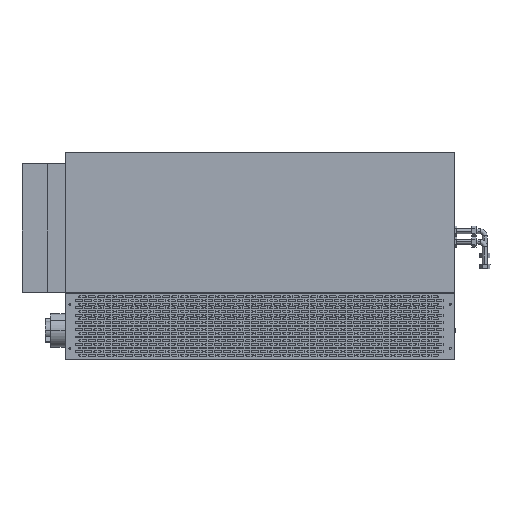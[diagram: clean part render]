
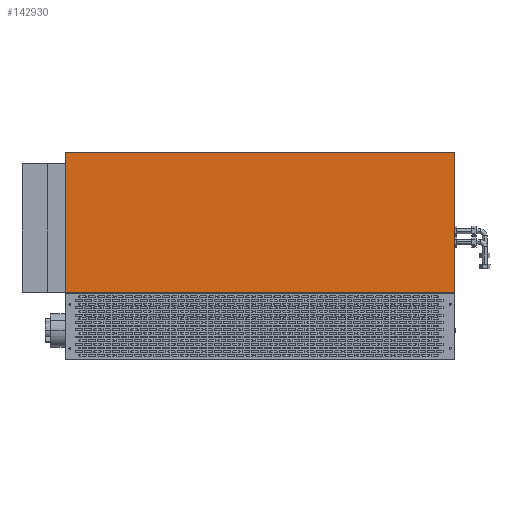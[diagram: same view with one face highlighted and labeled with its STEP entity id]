
A CAD part, top view. The second image highlights one B-rep face of the part: STEP entity #142930.
In plain terms, the highlighted planar face has unit normal (0, 0, 1).
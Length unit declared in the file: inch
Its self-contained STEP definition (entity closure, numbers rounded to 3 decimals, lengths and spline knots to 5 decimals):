
#333 = FACE_OUTER_BOUND ( 'NONE', #74465, .T. ) ;
#16071 = DIRECTION ( 'NONE',  ( 0., -1., 0. ) ) ;
#27021 = DIRECTION ( 'NONE',  ( -1., 0., 0. ) ) ;
#28837 = DIRECTION ( 'NONE',  ( -1., 0., 0. ) ) ;
#33182 = DIRECTION ( 'NONE',  ( 0., -1., 0. ) ) ;
#35287 = VERTEX_POINT ( 'NONE', #114787 ) ;
#36670 = CARTESIAN_POINT ( 'NONE',  ( -20.8125, 22.125, 2.5625 ) ) ;
#39137 = AXIS2_PLACEMENT_3D ( 'NONE', #68970, #109143, #28837 ) ;
#47576 = DIRECTION ( 'NONE',  ( 1., 0., 0. ) ) ;
#65323 = ORIENTED_EDGE ( 'NONE', *, *, #86580, .F. ) ;
#67802 = VERTEX_POINT ( 'NONE', #126537 ) ;
#68260 = VECTOR ( 'NONE', #47576, 39.37008 ) ;
#68970 = CARTESIAN_POINT ( 'NONE',  ( -20.8125, 22.125, 2.5625 ) ) ;
#69814 = CARTESIAN_POINT ( 'NONE',  ( -20.8125, 7.164, 2.5625 ) ) ;
#74465 = EDGE_LOOP ( 'NONE', ( #143073, #65323, #107972, #102098 ) ) ;
#80933 = EDGE_CURVE ( 'NONE', #90095, #67802, #144762, .T. ) ;
#83877 = CARTESIAN_POINT ( 'NONE',  ( -20.8125, 22.125, 2.5625 ) ) ;
#85844 = CARTESIAN_POINT ( 'NONE',  ( 20.8125, 22.125, 2.5625 ) ) ;
#86580 = EDGE_CURVE ( 'NONE', #35287, #137140, #149265, .T. ) ;
#87003 = EDGE_CURVE ( 'NONE', #90095, #137140, #137403, .T. ) ;
#90095 = VERTEX_POINT ( 'NONE', #36670 ) ;
#102098 = ORIENTED_EDGE ( 'NONE', *, *, #80933, .F. ) ;
#107972 = ORIENTED_EDGE ( 'NONE', *, *, #125061, .F. ) ;
#109143 = DIRECTION ( 'NONE',  ( 0., 0., -1. ) ) ;
#112108 = VECTOR ( 'NONE', #27021, 39.37008 ) ;
#114787 = CARTESIAN_POINT ( 'NONE',  ( 20.8125, 7.164, 2.5625 ) ) ;
#125061 = EDGE_CURVE ( 'NONE', #67802, #35287, #169656, .T. ) ;
#126537 = CARTESIAN_POINT ( 'NONE',  ( 20.8125, 22.125, 2.5625 ) ) ;
#137140 = VERTEX_POINT ( 'NONE', #139973 ) ;
#137403 = LINE ( 'NONE', #83877, #160755 ) ;
#139973 = CARTESIAN_POINT ( 'NONE',  ( -20.8125, 7.164, 2.5625 ) ) ;
#140958 = PLANE ( 'NONE',  #39137 ) ;
#142930 = ADVANCED_FACE ( 'NONE', ( #333 ), #140958, .F. ) ;
#143073 = ORIENTED_EDGE ( 'NONE', *, *, #87003, .T. ) ;
#144762 = LINE ( 'NONE', #172391, #68260 ) ;
#149265 = LINE ( 'NONE', #69814, #112108 ) ;
#160755 = VECTOR ( 'NONE', #16071, 39.37008 ) ;
#167669 = VECTOR ( 'NONE', #33182, 39.37008 ) ;
#169656 = LINE ( 'NONE', #85844, #167669 ) ;
#172391 = CARTESIAN_POINT ( 'NONE',  ( -20.8125, 22.125, 2.5625 ) ) ;
